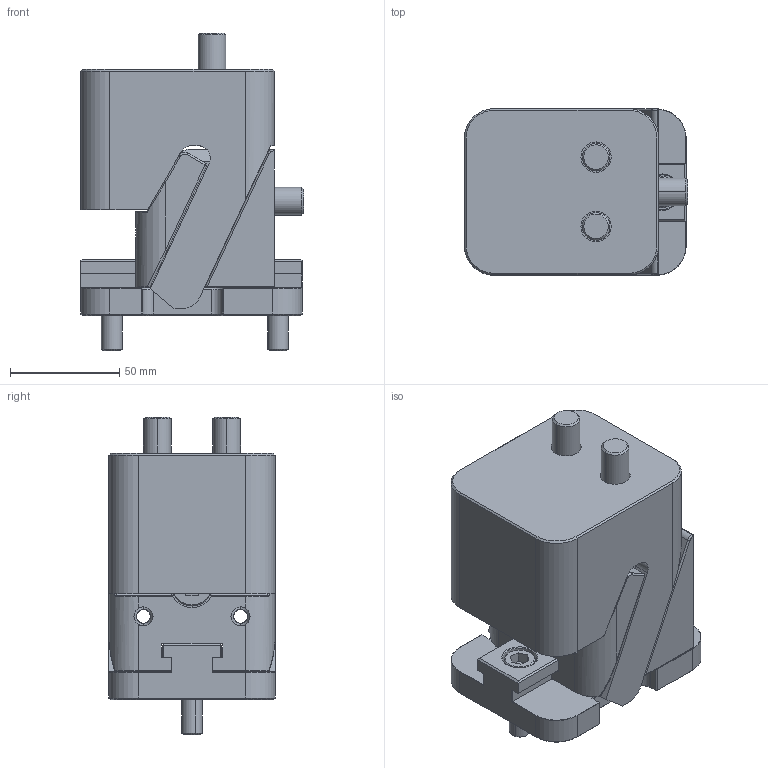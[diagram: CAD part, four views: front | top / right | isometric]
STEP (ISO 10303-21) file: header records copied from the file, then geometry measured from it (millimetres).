
FILE_DESCRIPTION (( 'STEP AP203' ), '1' );
FILE_NAME ('CA-400.step', '2018-03-29T19:58:33', ( '' ), ( '' ), 'SwSTEP 2.0', 'SolidWorks 2015', '' );
FILE_SCHEMA (( 'CONFIG_CONTROL_DESIGN' ));
Length unit declared in the file: inch
Products named in the file (13): SRT-30_AXLE; SRT30; SHCS_1-2_13X1_3-4; SRT-30_SPRING; SRT-30_BODY; SHCS_3-8_16X1_1-4; CA-400-G_GUIDE; SRT-30_ROLLER; CA-400-LK1_LOCK; SRT-30_SHSCR; CA-400-S_SLIDE; SHCS_1-2_13X1_1-2; CA-400
Assembly tree (15 placements, depth 3):
  CA-400
    CA-400-G_GUIDE
    CA-400-S_SLIDE
    CA-400-LK1_LOCK
    SHCS_3-8_16X1_1-4  x2
    SHCS_1-2_13X1_3-4
    SHCS_1-2_13X1_1-2  x2
    SRT30
      SRT-30_BODY
      SRT-30_AXLE
      SRT-30_ROLLER
      SRT-30_SPRING
      SRT-30_SHSCR  x2
Bounding box: 102.18 x 76.17 x 145.52 mm (x, y, z)
Volume: 668565.5 mm3; surface area: 119722.8 mm2
Topology: 14 solids, 14 shells, 557 faces, 1356 edges, 835 vertices
Faces by surface type: plane 245, cylinder 172, cone 84, torus 32, bspline 22, sphere 2
Entity records: 17847 total; most frequent: CARTESIAN_POINT 4712, DIRECTION 2467, ORIENTED_EDGE 2432, EDGE_CURVE 1216, AXIS2_PLACEMENT_3D 897, VERTEX_POINT 751, LINE 673, VECTOR 673
